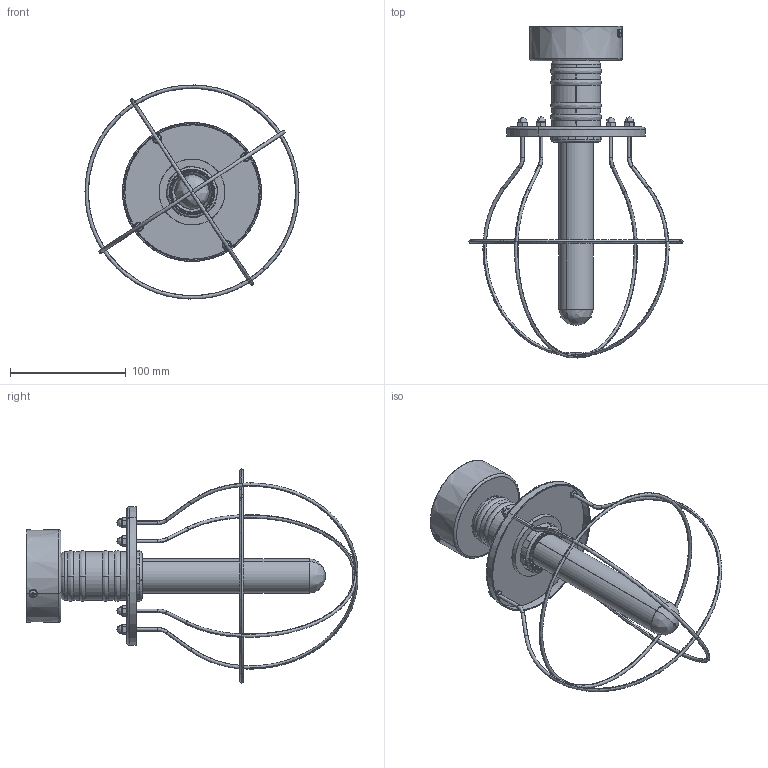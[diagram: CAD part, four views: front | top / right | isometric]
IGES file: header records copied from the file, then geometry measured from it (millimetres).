
Start section: SolidWorks IGES file using analytic representation for surfaces
Global section: file name: E:\3D lampy\Manufacture\Manufacture_9741.IGS; native system: SolidWorks 2016; preprocessor: SolidWorks 2016; author: Asia; date: 170713.114946; units: millimetre
Bounding box: 185 x 286.74 x 184.92 mm (x, y, z)
Surface area: 144251.4 mm2 (no closed solid volume)
Topology: 0 solids, 0 shells, 645 faces, 8802 edges, 8773 vertices
Faces by surface type: bspline 325, revolution 320
